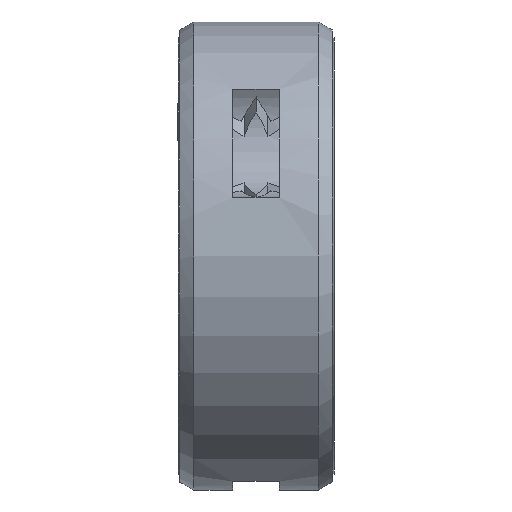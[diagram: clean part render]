
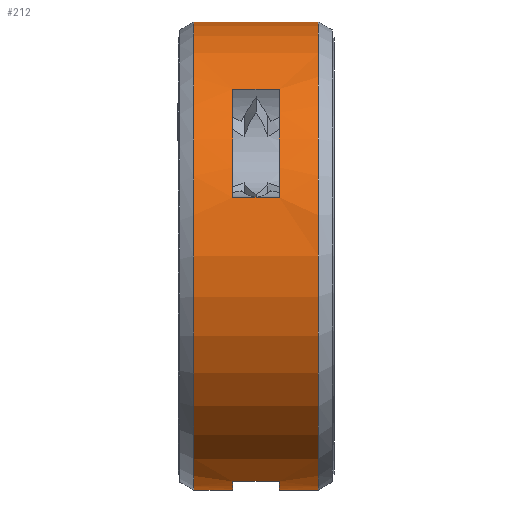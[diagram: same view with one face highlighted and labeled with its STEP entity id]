
A CAD part, front view. The second image highlights one B-rep face of the part: STEP entity #212.
In plain terms, the highlighted cylindrical face has radius 15 mm (diameter 30 mm), a full revolution.
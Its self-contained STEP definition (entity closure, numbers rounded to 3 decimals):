
#212=ADVANCED_FACE('',(#280,#281,#282,#283,#284),#257,.T.);
#257=CYLINDRICAL_SURFACE('',#876,15.);
#268=LINE('',#1208,#274);
#269=LINE('',#1213,#275);
#270=LINE('',#1216,#276);
#271=LINE('',#1221,#277);
#272=LINE('',#1224,#278);
#273=LINE('',#1229,#279);
#274=VECTOR('',#983,1.);
#275=VECTOR('',#986,1.);
#276=VECTOR('',#989,1.);
#277=VECTOR('',#992,1.);
#278=VECTOR('',#995,1.);
#279=VECTOR('',#998,1.);
#280=FACE_BOUND('',#307,.T.);
#281=FACE_BOUND('',#308,.T.);
#282=FACE_BOUND('',#309,.T.);
#283=FACE_BOUND('',#310,.T.);
#284=FACE_BOUND('',#311,.T.);
#307=EDGE_LOOP('',(#367));
#308=EDGE_LOOP('',(#368));
#309=EDGE_LOOP('',(#369,#370,#371,#372));
#310=EDGE_LOOP('',(#373,#374,#375,#376));
#311=EDGE_LOOP('',(#377,#378,#379,#380));
#367=ORIENTED_EDGE('',*,*,#685,.T.);
#368=ORIENTED_EDGE('',*,*,#686,.T.);
#369=ORIENTED_EDGE('',*,*,#687,.T.);
#370=ORIENTED_EDGE('',*,*,#688,.F.);
#371=ORIENTED_EDGE('',*,*,#689,.T.);
#372=ORIENTED_EDGE('',*,*,#690,.T.);
#373=ORIENTED_EDGE('',*,*,#691,.T.);
#374=ORIENTED_EDGE('',*,*,#692,.F.);
#375=ORIENTED_EDGE('',*,*,#693,.T.);
#376=ORIENTED_EDGE('',*,*,#694,.T.);
#377=ORIENTED_EDGE('',*,*,#695,.T.);
#378=ORIENTED_EDGE('',*,*,#696,.F.);
#379=ORIENTED_EDGE('',*,*,#697,.T.);
#380=ORIENTED_EDGE('',*,*,#698,.T.);
#603=VERTEX_POINT('',#1205);
#604=VERTEX_POINT('',#1207);
#605=VERTEX_POINT('',#1209);
#606=VERTEX_POINT('',#1210);
#607=VERTEX_POINT('',#1212);
#608=VERTEX_POINT('',#1214);
#609=VERTEX_POINT('',#1217);
#610=VERTEX_POINT('',#1218);
#611=VERTEX_POINT('',#1220);
#612=VERTEX_POINT('',#1222);
#613=VERTEX_POINT('',#1225);
#614=VERTEX_POINT('',#1226);
#615=VERTEX_POINT('',#1228);
#616=VERTEX_POINT('',#1230);
#685=EDGE_CURVE('',#603,#603,#803,.T.);
#686=EDGE_CURVE('',#604,#604,#804,.T.);
#687=EDGE_CURVE('',#605,#606,#268,.T.);
#688=EDGE_CURVE('',#607,#606,#805,.T.);
#689=EDGE_CURVE('',#607,#608,#269,.T.);
#690=EDGE_CURVE('',#608,#605,#806,.T.);
#691=EDGE_CURVE('',#609,#610,#270,.T.);
#692=EDGE_CURVE('',#611,#610,#807,.T.);
#693=EDGE_CURVE('',#611,#612,#271,.T.);
#694=EDGE_CURVE('',#612,#609,#808,.T.);
#695=EDGE_CURVE('',#613,#614,#272,.T.);
#696=EDGE_CURVE('',#615,#614,#809,.T.);
#697=EDGE_CURVE('',#615,#616,#273,.T.);
#698=EDGE_CURVE('',#616,#613,#810,.T.);
#803=CIRCLE('',#868,15.);
#804=CIRCLE('',#869,15.);
#805=CIRCLE('',#870,15.);
#806=CIRCLE('',#871,15.);
#807=CIRCLE('',#872,15.);
#808=CIRCLE('',#873,15.);
#809=CIRCLE('',#874,15.);
#810=CIRCLE('',#875,15.);
#868=AXIS2_PLACEMENT_3D('',#1204,#979,#980);
#869=AXIS2_PLACEMENT_3D('',#1206,#981,#982);
#870=AXIS2_PLACEMENT_3D('',#1211,#984,#985);
#871=AXIS2_PLACEMENT_3D('',#1215,#987,#988);
#872=AXIS2_PLACEMENT_3D('',#1219,#990,#991);
#873=AXIS2_PLACEMENT_3D('',#1223,#993,#994);
#874=AXIS2_PLACEMENT_3D('',#1227,#996,#997);
#875=AXIS2_PLACEMENT_3D('',#1231,#999,#1000);
#876=AXIS2_PLACEMENT_3D('',#1232,#1001,#1002);
#979=DIRECTION('',(-1.,0.,0.));
#980=DIRECTION('',(0.,0.,-1.));
#981=DIRECTION('',(1.,0.,0.));
#982=DIRECTION('',(0.,0.,1.));
#983=DIRECTION('',(1.,0.,0.));
#984=DIRECTION('',(-1.,0.,0.));
#985=DIRECTION('',(0.,0.,1.));
#986=DIRECTION('',(-1.,0.,0.));
#987=DIRECTION('',(-1.,0.,0.));
#988=DIRECTION('',(0.,0.,1.));
#989=DIRECTION('',(1.,0.,0.));
#990=DIRECTION('',(-1.,0.,0.));
#991=DIRECTION('',(0.,0.,1.));
#992=DIRECTION('',(-1.,0.,0.));
#993=DIRECTION('',(-1.,0.,0.));
#994=DIRECTION('',(0.,0.,1.));
#995=DIRECTION('',(1.,0.,0.));
#996=DIRECTION('',(-1.,0.,0.));
#997=DIRECTION('',(0.,0.,1.));
#998=DIRECTION('',(-1.,0.,0.));
#999=DIRECTION('',(-1.,0.,0.));
#1000=DIRECTION('',(0.,0.,1.));
#1001=DIRECTION('',(1.,0.,0.));
#1002=DIRECTION('',(0.,0.,-1.));
#1204=CARTESIAN_POINT('',(9.,0.,0.));
#1205=CARTESIAN_POINT('',(9.,0.,-15.));
#1206=CARTESIAN_POINT('',(1.,0.,0.));
#1207=CARTESIAN_POINT('',(1.,0.,15.));
#1208=CARTESIAN_POINT('',(5.,-10.514,10.699));
#1209=CARTESIAN_POINT('',(3.5,-10.514,10.699));
#1210=CARTESIAN_POINT('',(6.5,-10.514,10.699));
#1211=CARTESIAN_POINT('',(6.5,0.,0.));
#1212=CARTESIAN_POINT('',(6.5,-14.522,3.756));
#1213=CARTESIAN_POINT('',(5.,-14.522,3.756));
#1214=CARTESIAN_POINT('',(3.5,-14.522,3.756));
#1215=CARTESIAN_POINT('',(3.5,0.,0.));
#1216=CARTESIAN_POINT('',(5.,-4.008,-14.455));
#1217=CARTESIAN_POINT('',(3.5,-4.008,-14.455));
#1218=CARTESIAN_POINT('',(6.5,-4.008,-14.455));
#1219=CARTESIAN_POINT('',(6.5,0.,0.));
#1220=CARTESIAN_POINT('',(6.5,4.008,-14.455));
#1221=CARTESIAN_POINT('',(5.,4.008,-14.455));
#1222=CARTESIAN_POINT('',(3.5,4.008,-14.455));
#1223=CARTESIAN_POINT('',(3.5,0.,0.));
#1224=CARTESIAN_POINT('',(5.,14.522,3.756));
#1225=CARTESIAN_POINT('',(3.5,14.522,3.756));
#1226=CARTESIAN_POINT('',(6.5,14.522,3.756));
#1227=CARTESIAN_POINT('',(6.5,0.,0.));
#1228=CARTESIAN_POINT('',(6.5,10.514,10.699));
#1229=CARTESIAN_POINT('',(5.,10.514,10.699));
#1230=CARTESIAN_POINT('',(3.5,10.514,10.699));
#1231=CARTESIAN_POINT('',(3.5,0.,0.));
#1232=CARTESIAN_POINT('',(0.,0.,0.));
